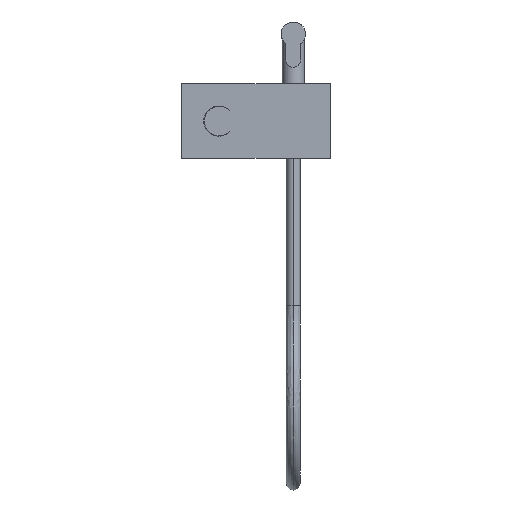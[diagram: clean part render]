
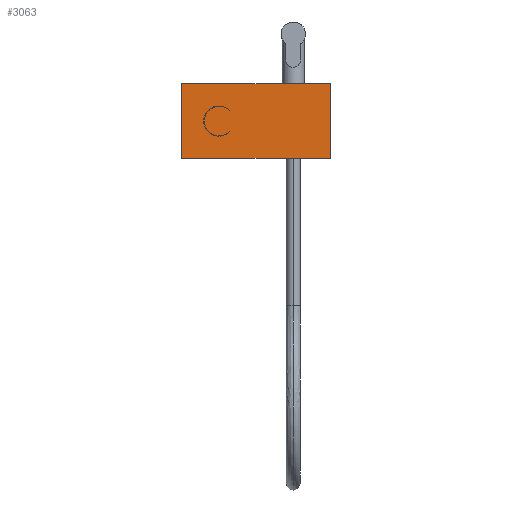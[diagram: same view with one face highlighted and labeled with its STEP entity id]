
A CAD part, front view. The second image highlights one B-rep face of the part: STEP entity #3063.
In plain terms, the highlighted planar face has unit normal (0, -1, 0).
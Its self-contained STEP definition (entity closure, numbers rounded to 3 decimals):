
#66=CARTESIAN_POINT('',(-119.5,48.,-39.5));
#67=DIRECTION('',(0.,-1.,0.));
#68=DIRECTION('',(-1.,0.,0.));
#69=AXIS2_PLACEMENT_3D('',#66,#67,#68);
#71=DIRECTION('',(0.,0.,1.));
#72=VECTOR('',#71,79.);
#73=CARTESIAN_POINT('',(-120.,48.,-39.5));
#74=LINE('',#73,#72);
#75=CARTESIAN_POINT('',(-119.5,48.,39.5));
#76=DIRECTION('',(0.,-1.,0.));
#77=DIRECTION('',(0.,0.,1.));
#78=AXIS2_PLACEMENT_3D('',#75,#76,#77);
#80=DIRECTION('',(1.,0.,0.));
#81=VECTOR('',#80,159.);
#82=CARTESIAN_POINT('',(-119.5,48.,40.));
#83=LINE('',#82,#81);
#84=CARTESIAN_POINT('',(39.5,48.,39.5));
#85=DIRECTION('',(0.,-1.,0.));
#86=DIRECTION('',(1.,0.,0.));
#87=AXIS2_PLACEMENT_3D('',#84,#85,#86);
#89=DIRECTION('',(0.,0.,-1.));
#90=VECTOR('',#89,79.);
#91=CARTESIAN_POINT('',(40.,48.,39.5));
#92=LINE('',#91,#90);
#93=CARTESIAN_POINT('',(39.5,48.,-39.5));
#94=DIRECTION('',(0.,-1.,0.));
#95=DIRECTION('',(0.,0.,-1.));
#96=AXIS2_PLACEMENT_3D('',#93,#94,#95);
#98=DIRECTION('',(-1.,0.,0.));
#99=VECTOR('',#98,159.);
#100=CARTESIAN_POINT('',(39.5,48.,-40.));
#101=LINE('',#100,#99);
#2664=CARTESIAN_POINT('',(-120.,48.,-39.5));
#2665=CARTESIAN_POINT('',(-119.5,48.,-40.));
#2666=VERTEX_POINT('',#2664);
#2667=VERTEX_POINT('',#2665);
#2672=CARTESIAN_POINT('',(39.5,48.,-40.));
#2673=CARTESIAN_POINT('',(40.,48.,-39.5));
#2674=VERTEX_POINT('',#2672);
#2675=VERTEX_POINT('',#2673);
#2680=CARTESIAN_POINT('',(40.,48.,39.5));
#2681=CARTESIAN_POINT('',(39.5,48.,40.));
#2682=VERTEX_POINT('',#2680);
#2683=VERTEX_POINT('',#2681);
#2688=CARTESIAN_POINT('',(-119.5,48.,40.));
#2689=CARTESIAN_POINT('',(-120.,48.,39.5));
#2690=VERTEX_POINT('',#2688);
#2691=VERTEX_POINT('',#2689);
#3041=CARTESIAN_POINT('',(-80.,48.,0.));
#3042=DIRECTION('',(0.,-1.,0.));
#3043=DIRECTION('',(1.,0.,0.));
#3044=AXIS2_PLACEMENT_3D('',#3041,#3042,#3043);
#3045=PLANE('',#3044);
#3046=ORIENTED_EDGE('',*,*,#3031,.F.);
#3048=ORIENTED_EDGE('',*,*,#3047,.T.);
#3050=ORIENTED_EDGE('',*,*,#3049,.F.);
#3052=ORIENTED_EDGE('',*,*,#3051,.T.);
#3054=ORIENTED_EDGE('',*,*,#3053,.F.);
#3056=ORIENTED_EDGE('',*,*,#3055,.T.);
#3058=ORIENTED_EDGE('',*,*,#3057,.F.);
#3060=ORIENTED_EDGE('',*,*,#3059,.T.);
#3061=EDGE_LOOP('',(#3046,#3048,#3050,#3052,#3054,#3056,#3058,#3060));
#3062=FACE_OUTER_BOUND('',#3061,.F.);
#3063=ADVANCED_FACE('',(#3062),#3045,.T.);
#70=CIRCLE('',#69,0.5);
#79=CIRCLE('',#78,0.5);
#88=CIRCLE('',#87,0.5);
#97=CIRCLE('',#96,0.5);
#3031=EDGE_CURVE('',#2666,#2667,#70,.T.);
#3047=EDGE_CURVE('',#2666,#2691,#74,.T.);
#3049=EDGE_CURVE('',#2690,#2691,#79,.T.);
#3051=EDGE_CURVE('',#2690,#2683,#83,.T.);
#3053=EDGE_CURVE('',#2682,#2683,#88,.T.);
#3055=EDGE_CURVE('',#2682,#2675,#92,.T.);
#3057=EDGE_CURVE('',#2674,#2675,#97,.T.);
#3059=EDGE_CURVE('',#2674,#2667,#101,.T.);
